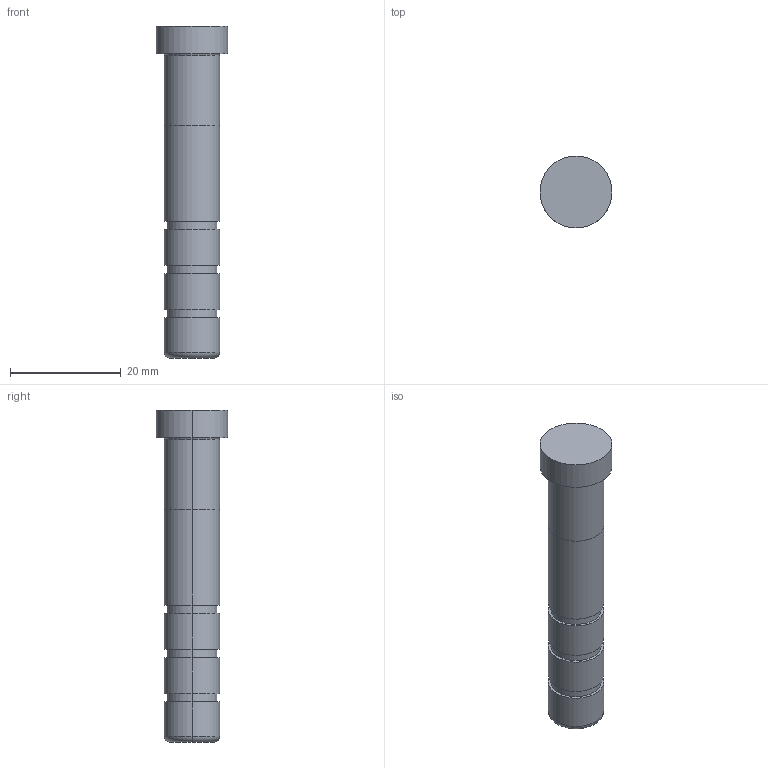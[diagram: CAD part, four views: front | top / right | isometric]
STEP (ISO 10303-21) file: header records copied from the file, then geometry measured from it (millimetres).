
FILE_DESCRIPTION(/* description */ (''),/* implementation_level */ '2;1');
FILE_NAME(/* name */ '3d_sgoh10-60_05218_r00.stp',/* time_stamp */ '2011-01-10T14:11:10+09:00',/* author */ ('MISUMI'),/* organization */ (''),/* preprocessor_version */ 'ST-DEVELOPER v11',/* originating_system */ 'UGS - NX 5.0',/* authorisation */ '');
FILE_SCHEMA (('CONFIG_CONTROL_DESIGN'));
Length unit declared in the file: millimetre
Products named in the file (1): 3d_sgoh10-60_05218_r00
Bounding box: 13 x 13 x 60 mm (x, y, z)
Volume: 4910.2 mm3; surface area: 2255.7 mm2
Topology: 1 solids, 1 shells, 31 faces, 60 edges, 38 vertices
Faces by surface type: cylinder 18, plane 9, torus 4
Entity records: 894 total; most frequent: DIRECTION 166, CARTESIAN_POINT 130, ORIENTED_EDGE 120, AXIS2_PLACEMENT_3D 74, EDGE_CURVE 60, CIRCLE 42, EDGE_LOOP 38, VERTEX_POINT 38
